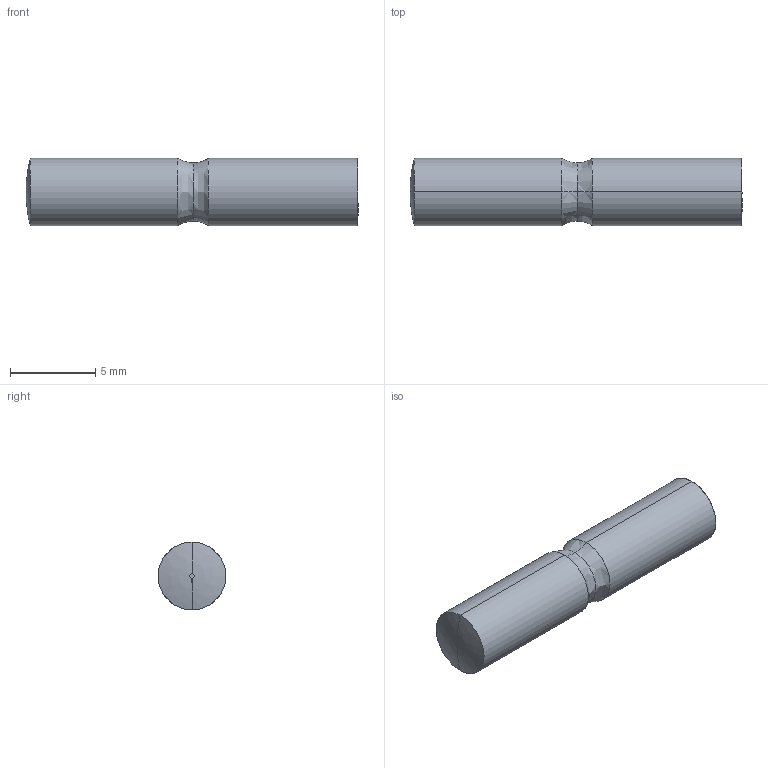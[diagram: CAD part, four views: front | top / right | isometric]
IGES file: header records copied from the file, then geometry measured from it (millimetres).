
Start section: SolidWorks IGES file using analytic representation for surfaces
Global section: file name: \\PSSILO\catalogs\CONTENTCENTRAL\Mainspring Housing Pin\Cache\FB09139B-F74A-4C46-826E-CBD97F0FD923.IGS; native system: SolidWorks 2009; preprocessor: SolidWorks 2009; author: partstream; date: 090731.224950; units: inch
Bounding box: 19.43 x 3.96 x 3.96 mm (x, y, z)
Surface area: 264.8 mm2 (no closed solid volume)
Topology: 0 solids, 0 shells, 16 faces, 136 edges, 134 vertices
Faces by surface type: revolution 10, bspline 6
